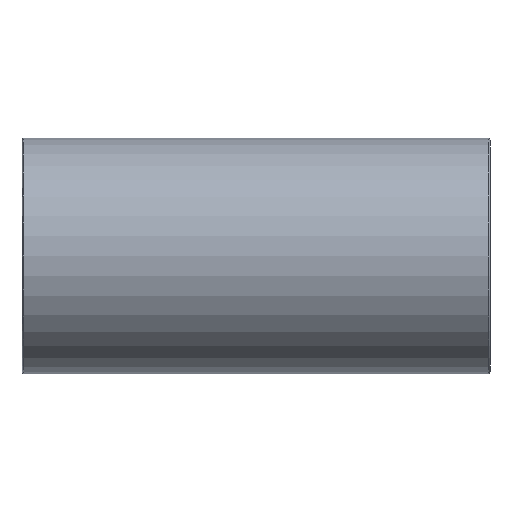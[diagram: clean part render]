
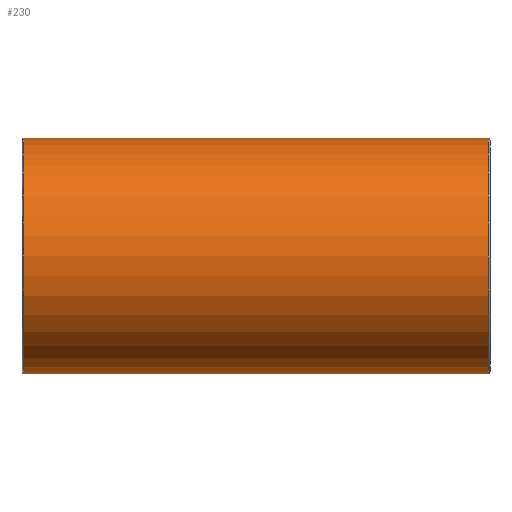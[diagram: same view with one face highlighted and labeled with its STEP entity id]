
A CAD part, front view. The second image highlights one B-rep face of the part: STEP entity #230.
In plain terms, the highlighted cylindrical face has radius 36.5 mm (diameter 73 mm), a full revolution.
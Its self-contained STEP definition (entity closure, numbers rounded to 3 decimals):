
#26=FACE_BOUND('',#93,.T.);
#27=FACE_BOUND('',#94,.T.);
#46=CIRCLE('',#255,36.5);
#47=CIRCLE('',#256,36.5);
#63=CYLINDRICAL_SURFACE('',#254,36.5);
#72=FACE_OUTER_BOUND('',#92,.T.);
#92=EDGE_LOOP('',(#184));
#93=EDGE_LOOP('',(#185,#186));
#94=EDGE_LOOP('',(#187));
#130=ELLIPSE('',#250,53.659,36.5);
#132=ELLIPSE('',#252,53.659,36.5);
#136=VERTEX_POINT('',#436);
#137=VERTEX_POINT('',#437);
#138=VERTEX_POINT('',#503);
#139=VERTEX_POINT('',#505);
#157=EDGE_CURVE('',#136,#137,#130,.T.);
#159=EDGE_CURVE('',#137,#136,#132,.T.);
#161=EDGE_CURVE('',#138,#138,#46,.T.);
#162=EDGE_CURVE('',#139,#139,#47,.T.);
#184=ORIENTED_EDGE('',*,*,#161,.F.);
#185=ORIENTED_EDGE('',*,*,#159,.F.);
#186=ORIENTED_EDGE('',*,*,#157,.F.);
#187=ORIENTED_EDGE('',*,*,#162,.F.);
#230=ADVANCED_FACE('',(#72,#26,#27),#63,.T.);
#250=AXIS2_PLACEMENT_3D('',#438,#293,#294);
#252=AXIS2_PLACEMENT_3D('',#500,#297,#298);
#254=AXIS2_PLACEMENT_3D('',#502,#301,#302);
#255=AXIS2_PLACEMENT_3D('',#504,#303,#304);
#256=AXIS2_PLACEMENT_3D('',#506,#305,#306);
#293=DIRECTION('center_axis',(-0.68,0.733,0.));
#294=DIRECTION('ref_axis',(0.733,0.68,0.));
#297=DIRECTION('center_axis',(0.68,0.733,0.));
#298=DIRECTION('ref_axis',(-0.733,0.68,0.));
#301=DIRECTION('center_axis',(1.,0.,0.));
#302=DIRECTION('ref_axis',(0.,1.,0.));
#303=DIRECTION('center_axis',(-1.,0.,0.));
#304=DIRECTION('ref_axis',(0.,-1.,0.));
#305=DIRECTION('center_axis',(1.,0.,0.));
#306=DIRECTION('ref_axis',(0.,-1.,0.));
#436=CARTESIAN_POINT('',(0.,0.,36.5));
#437=CARTESIAN_POINT('',(0.,0.,-36.5));
#438=CARTESIAN_POINT('Origin',(0.,0.,0.));
#500=CARTESIAN_POINT('Origin',(0.,0.,0.));
#502=CARTESIAN_POINT('Origin',(0.,0.,
0.));
#503=CARTESIAN_POINT('',(-71.933,36.5,0.));
#504=CARTESIAN_POINT('Origin',(-71.933,0.,0.));
#505=CARTESIAN_POINT('',(71.933,36.5,0.));
#506=CARTESIAN_POINT('Origin',(71.933,0.,0.));
